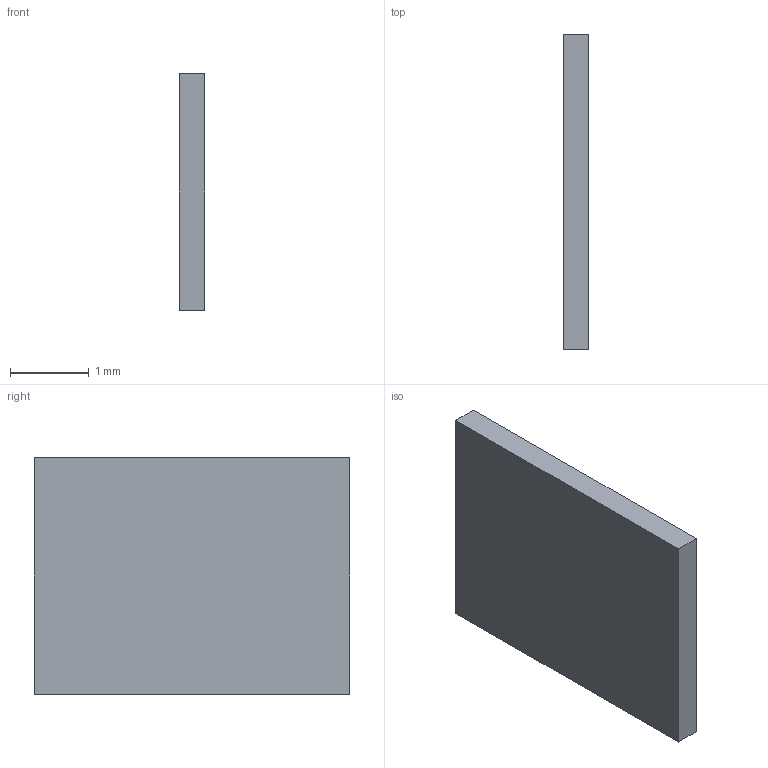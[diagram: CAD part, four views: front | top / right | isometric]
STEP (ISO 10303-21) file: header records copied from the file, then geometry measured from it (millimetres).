
FILE_DESCRIPTION(('Open CASCADE Model'),'2;1');
FILE_NAME('STOP_CALIBRATION_PTT_0','2026-09-06T11:49:22',('Author'),( 'Open CASCADE'),'Open CASCADE STEP processor 7.8','build123d', 'Unknown');
FILE_SCHEMA(('AUTOMOTIVE_DESIGN { 1 0 10303 214 1 1 1 1 }'));
Length unit declared in the file: millimetre
Products named in the file (2): =>[0:1:1:2]; STOP_CALIBRATION_PTT_0
Assembly tree (1 placements, depth 2):
  =>[0:1:1:2]
    STOP_CALIBRATION_PTT_0
Bounding box: 0.32 x 4 x 3 mm (x, y, z)
Volume: 3.8 mm3; surface area: 28.5 mm2
Topology: 1 solids, 1 shells, 6 faces, 12 edges, 8 vertices
Faces by surface type: plane 6
Entity records: 340 total; most frequent: CARTESIAN_POINT 52, DIRECTION 52, LINE 36, VECTOR 36, ORIENTED_EDGE 24, PCURVE 24, DEFINITIONAL_REPRESENTATION 24, EDGE_CURVE 12
